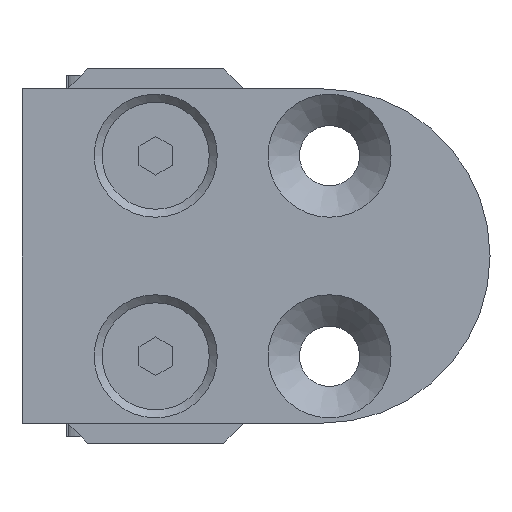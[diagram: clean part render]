
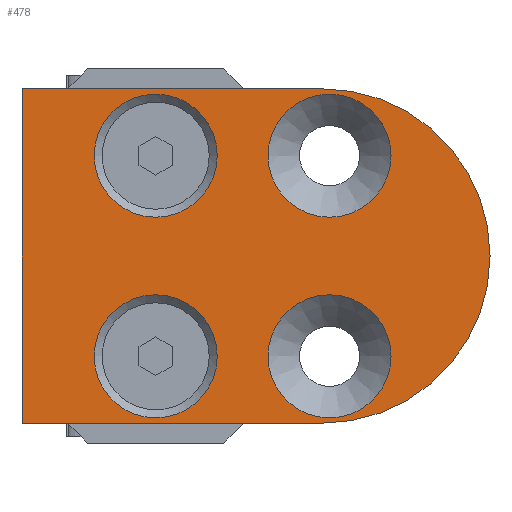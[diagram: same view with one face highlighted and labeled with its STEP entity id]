
A CAD part, front view. The second image highlights one B-rep face of the part: STEP entity #478.
In plain terms, the highlighted planar face has unit normal (0, -1, 0).
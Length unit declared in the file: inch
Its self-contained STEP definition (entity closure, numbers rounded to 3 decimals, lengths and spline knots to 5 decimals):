
#233=CARTESIAN_POINT('',(0.69291,-0.11811,0.0));
#234=VERTEX_POINT('',#233);
#235=CARTESIAN_POINT('',(0.51181,-0.11811,0.0));
#236=DIRECTION('',(0.0,1.0,0.0));
#237=DIRECTION('',(1.0,0.0,0.0));
#238=AXIS2_PLACEMENT_3D('',#235,#236,#237);
#239=CIRCLE('',#238,0.1811);
#240=EDGE_CURVE('',#234,#234,#239,.T.);
#253=CARTESIAN_POINT('',(0.1811,-0.11811,0.0));
#254=VERTEX_POINT('',#253);
#255=CARTESIAN_POINT('',(0.,-0.11811,0.0));
#256=DIRECTION('',(0.0,1.0,0.0));
#257=DIRECTION('',(1.0,0.0,0.0));
#258=AXIS2_PLACEMENT_3D('',#255,#256,#257);
#259=CIRCLE('',#258,0.1811);
#260=EDGE_CURVE('',#254,#254,#259,.T.);
#273=CARTESIAN_POINT('',(0.69291,-0.11811,0.59055));
#274=VERTEX_POINT('',#273);
#275=CARTESIAN_POINT('',(0.51181,-0.11811,0.59055));
#276=DIRECTION('',(0.0,1.0,0.0));
#277=DIRECTION('',(1.0,0.0,0.0));
#278=AXIS2_PLACEMENT_3D('',#275,#276,#277);
#279=CIRCLE('',#278,0.1811);
#280=EDGE_CURVE('',#274,#274,#279,.T.);
#293=CARTESIAN_POINT('',(0.1811,-0.11811,0.59055));
#294=VERTEX_POINT('',#293);
#295=CARTESIAN_POINT('',(0.,-0.11811,0.59055));
#296=DIRECTION('',(0.0,1.0,0.0));
#297=DIRECTION('',(1.0,0.0,0.0));
#298=AXIS2_PLACEMENT_3D('',#295,#296,#297);
#299=CIRCLE('',#298,0.1811);
#300=EDGE_CURVE('',#294,#294,#299,.T.);
#364=CARTESIAN_POINT('',(0.49213,-0.11811,0.7874));
#365=VERTEX_POINT('',#364);
#372=CARTESIAN_POINT('',(0.49213,-0.11811,-0.19685));
#373=VERTEX_POINT('',#372);
#374=CARTESIAN_POINT('',(0.49213,-0.11811,0.29528));
#375=DIRECTION('',(0.0,1.0,0.0));
#376=DIRECTION('',(0.0,0.0,1.0));
#377=AXIS2_PLACEMENT_3D('',#374,#375,#376);
#378=CIRCLE('',#377,0.49213);
#379=EDGE_CURVE('',#365,#373,#378,.T.);
#397=CARTESIAN_POINT('',(-0.3937,-0.11811,-0.19685));
#398=VERTEX_POINT('',#397);
#399=CARTESIAN_POINT('',(0.49213,-0.11811,-0.19685));
#400=DIRECTION('',(-1.0,0.0,0.0));
#401=VECTOR('',#400,0.88583);
#402=LINE('',#399,#401);
#403=EDGE_CURVE('',#373,#398,#402,.T.);
#421=CARTESIAN_POINT('',(-0.3937,-0.11811,0.7874));
#422=VERTEX_POINT('',#421);
#423=CARTESIAN_POINT('',(-0.3937,-0.11811,-0.19685));
#424=DIRECTION('',(0.0,0.0,1.0));
#425=VECTOR('',#424,0.98425);
#426=LINE('',#423,#425);
#427=EDGE_CURVE('',#398,#422,#426,.T.);
#445=CARTESIAN_POINT('',(-0.3937,-0.11811,0.7874));
#446=DIRECTION('',(1.0,0.0,0.0));
#447=VECTOR('',#446,0.88583);
#448=LINE('',#445,#447);
#449=EDGE_CURVE('',#422,#365,#448,.T.);
#455=CARTESIAN_POINT('',(0.21724,-0.11811,0.29528));
#456=DIRECTION('',(0.0,-1.0,0.0));
#457=DIRECTION('',(0.0,0.0,-1.0));
#458=AXIS2_PLACEMENT_3D('',#455,#456,#457);
#459=PLANE('',#458);
#460=ORIENTED_EDGE('',*,*,#449,.F.);
#461=ORIENTED_EDGE('',*,*,#427,.F.);
#462=ORIENTED_EDGE('',*,*,#403,.F.);
#463=ORIENTED_EDGE('',*,*,#379,.F.);
#464=EDGE_LOOP('',(#460,#461,#462,#463));
#465=FACE_OUTER_BOUND('',#464,.T.);
#466=ORIENTED_EDGE('',*,*,#240,.T.);
#467=EDGE_LOOP('',(#466));
#468=FACE_BOUND('',#467,.T.);
#469=ORIENTED_EDGE('',*,*,#260,.T.);
#470=EDGE_LOOP('',(#469));
#471=FACE_BOUND('',#470,.T.);
#472=ORIENTED_EDGE('',*,*,#280,.T.);
#473=EDGE_LOOP('',(#472));
#474=FACE_BOUND('',#473,.T.);
#475=ORIENTED_EDGE('',*,*,#300,.T.);
#476=EDGE_LOOP('',(#475));
#477=FACE_BOUND('',#476,.T.);
#478=ADVANCED_FACE('',(#465,#468,#471,#474,#477),#459,.T.);
